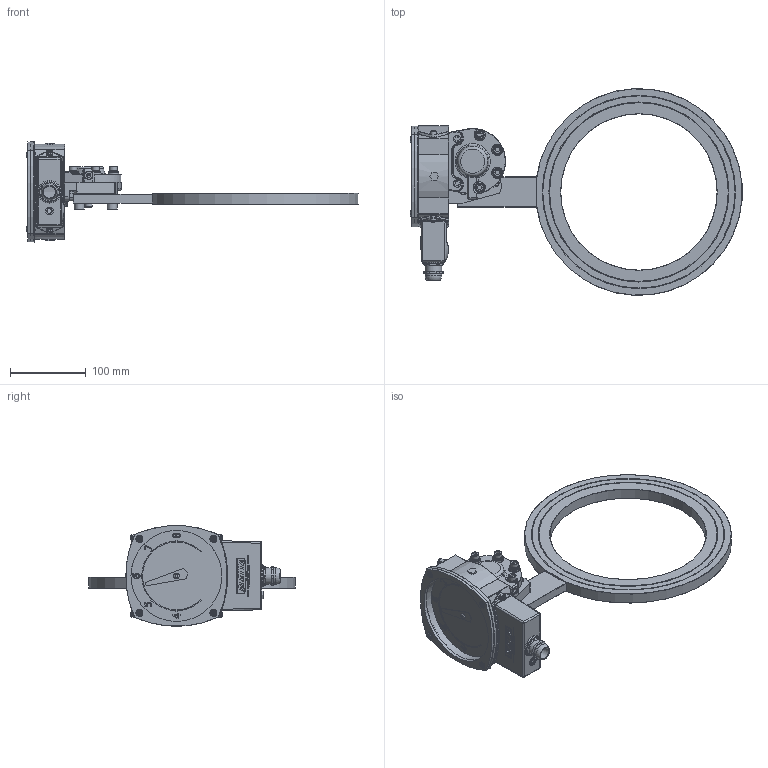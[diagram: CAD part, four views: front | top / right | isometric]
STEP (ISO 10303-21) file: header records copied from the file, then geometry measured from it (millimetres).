
FILE_DESCRIPTION(/* description */ ('Alibre Inc.'),/* implementation_level */ '2;1');
FILE_NAME(/* name */ 'export0',/* time_stamp */ '2012-10-19T13:42:55+02:00',/* author */ (''),/* organization */ (''),/* preprocessor_version */ 'ST-DEVELOPER v14',/* originating_system */ 'Alibre',/* authorisation */ '');
FILE_SCHEMA (('CONFIG_CONTROL_DESIGN'));
Length unit declared in the file: centimetre
Products named in the file (19): ID_1; ID_2; ID_3; ID_4; ID_5; ID_6; ID_7; ID_8; ID_9; ID_10; ID_11; ID_12; ID_13; ID_14
Bounding box: 439.61 x 273.6 x 132.88 mm (x, y, z)
Volume: 850134.2 mm3; surface area: 296440.7 mm2
Topology: 31 solids, 31 shells, 1723 faces, 4150 edges, 2558 vertices
Faces by surface type: plane 766, bspline 365, cylinder 322, torus 158, cone 86, sphere 26
Full cylindrical faces by diameter (mm): 3.9 x2, 5 x18, 5.2 x2, 5.5 x5, 5.541 x2, 6 x28, 6.35 x2, 6.5 x7, 8 x7, 8.5 x2, 9.6 x6, 10 x11, 10.5 x1, 12 x3, 13 x2, 14 x3, 16 x1, 19.5 x1, 22 x2, 22.5 x4, 25 x1, 29 x1, 31 x1, 120.5 x3, 123.4 x1, 129 x1, 207 x1, 237 x2, 238 x2, 255 x2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
Entity records: 60556 total; most frequent: CARTESIAN_POINT 28551, ORIENTED_EDGE 6474, DIRECTION 4845, EDGE_CURVE 3237, VERTEX_POINT 2118, AXIS2_PLACEMENT_3D 2016, EDGE_LOOP 1787, FACE_BOUND 1787
